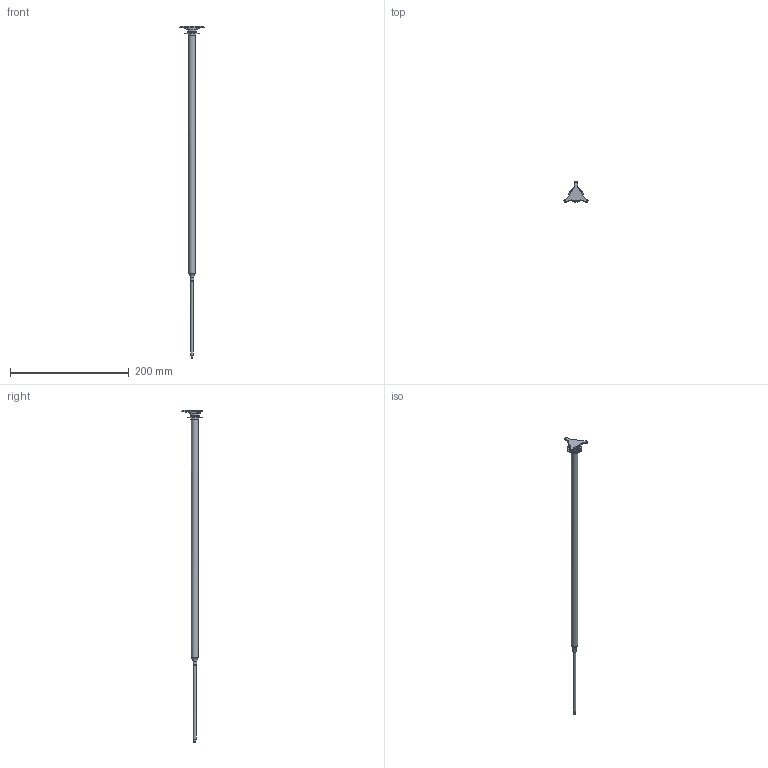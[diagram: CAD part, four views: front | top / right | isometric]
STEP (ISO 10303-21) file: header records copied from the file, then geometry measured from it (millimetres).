
FILE_DESCRIPTION(/* description */ (''),/* implementation_level */ '2;1');
FILE_NAME(/* name */ 'LA-6084-0700-A.stp',/* time_stamp */ '2014-06-03T14:39:23+01:00',/* author */ (''),/* organization */ (''),/* preprocessor_version */ 'ST-DEVELOPER v11',/* originating_system */ 'SIEMENS PLM Software NX 7.5',/* authorisation */ '');
FILE_SCHEMA (('AUTOMOTIVE_DESIGN { 1 0 10303 214 1 1 1 1 }'));
Length unit declared in the file: millimetre
Products named in the file (1): ej13DD85l5gp
Bounding box: 40.74 x 35.6 x 559.37 mm (x, y, z)
Volume: 47023 mm3; surface area: 19131.6 mm2
Topology: 1 solids, 1 shells, 157 faces, 495 edges, 387 vertices
Faces by surface type: plane 69, cylinder 55, cone 31, torus 2
Full cylindrical faces by diameter (mm): 1.7 x1, 2.2 x1, 3 x1, 4.65 x1, 4.8 x1, 6 x1, 11.1 x1, 11.25 x1, 13.05 x1, 13.46 x1, 15 x2, 18 x1, 25 x1
Entity records: 7177 total; most frequent: CARTESIAN_POINT 1998, ORIENTED_EDGE 908, DIRECTION 679, EDGE_CURVE 454, VERTEX_POINT 376, AXIS2_PLACEMENT_3D 286, EDGE_LOOP 233, B_SPLINE_CURVE_WITH_KNOTS 219
